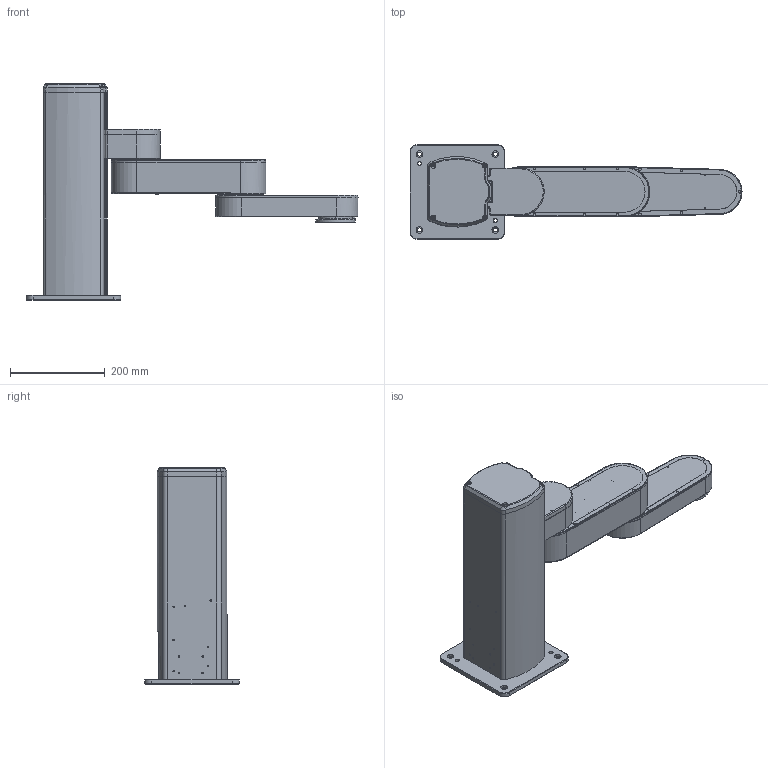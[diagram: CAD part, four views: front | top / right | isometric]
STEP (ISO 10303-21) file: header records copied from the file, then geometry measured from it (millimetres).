
FILE_DESCRIPTION(('CATIA V5 STEP Exchange'),'2;1');
FILE_NAME('E:\YFX工作文件\1 机械臂\机械臂简图\2442系列\1042\Z-Arm 1042.stp','2021-11-11T01:06:15+00:00',('none'),('none'),'CATIA Version 5 Release 20 GA (IN-10)','CATIA V5 STEP AP203','none');
FILE_SCHEMA(('CONFIG_CONTROL_DESIGN'));
Length unit declared in the file: millimetre
Products named in the file (6): 产品1; 产品5; LIANJIEBAN; 101-012-10-01-02; 101-012-10-03; 101-012-10-02
Assembly tree (24 placements, depth 4):
  产品1
    产品5
      #66
      #6270
      #7720
      LIANJIEBAN
        #12095
        #16123
      #16739
      #18916
    101-012-10-01-02
      #23283
      #26426
    101-012-10-03
      #29892
      #32138
      #33495
      #34536
    101-012-10-02
      #35317
      #37949
      #39541
      #40956
      #42855
    #43374
Bounding box: 700.5 x 200 x 456 mm (x, y, z)
Volume: 6466554.3 mm3; surface area: 1113153.6 mm2
Topology: 19 solids, 19 shells, 1422 faces, 3749 edges, 2391 vertices
Faces by surface type: cylinder 677, plane 432, cone 244, torus 51, extrusion 13, bspline 5
Entity records: 47806 total; most frequent: CARTESIAN_POINT 13665, ORIENTED_EDGE 7378, DIRECTION 5862, EDGE_CURVE 3689, AXIS2_PLACEMENT_3D 2681, VERTEX_POINT 2391, VECTOR 1839, LINE 1826
